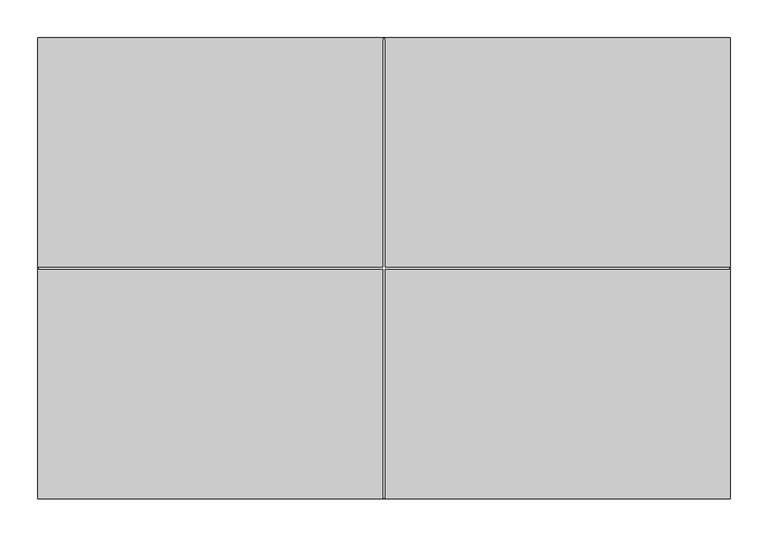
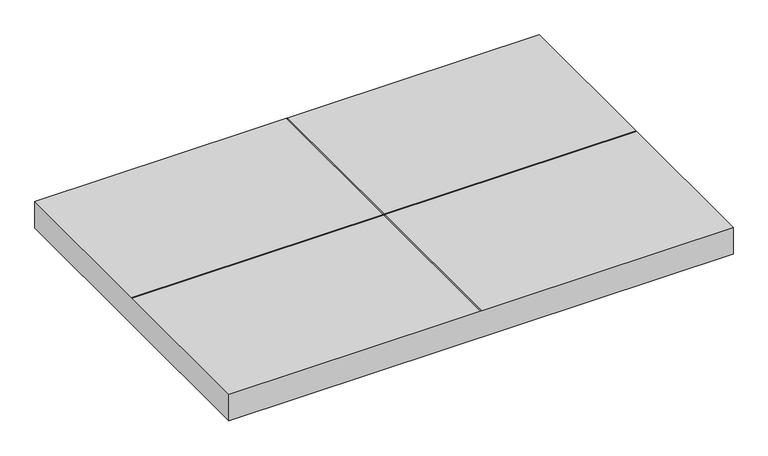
"""IFC4 building model written with IfcOpenShell, lengths in millimetres: furniture geometry, Steelcase - Universal Storage - Cushion Top - for Lateral File : Flush Steel Front - 24D x 36W."""

from ifc_helpers import new_model, si_unit, frame, origin, place, context, project, spatial, polyline, outline, extrude, source, transform, mapped, element, save


def furniture_033c3240(model_context):
    return source(origin(), model_context, "Body", "SweptSolid", [
        extrude(outline(polyline([(914.4, 0.0), (914.4, -609.6), (0.0, -609.6), (0.0, 0.0), (914.4, 0.0)]), holes=[polyline([(0.889, -303.911), (0.889, -305.689), (456.311, -305.689), (456.311, -608.7110015), (458.089, -608.7110015), (458.089, -305.689), (913.5109651, -305.689), (913.5109651, -303.911), (458.089, -303.911), (458.089, -0.889), (456.311, -0.889), (456.311, -303.911), (0.889, -303.911)])]), frame((0.0, 0.0, 533.4), z_axis=(0.0, 0.0, 1.0), x_axis=(1.0, 0.0, 0.0)), (0.0, 0.0, 1.0), 50.7999971),
    ])


if __name__ == "__main__":
    model = new_model("IFC4")
    model_context = context("Model", 3, world=origin())
    ifc_project = project(units=[si_unit("LENGTHUNIT", "METRE", prefix="MILLI")], contexts=[model_context])
    site = spatial("IfcSite", under=ifc_project)
    building = spatial("IfcBuilding", under=site)
    placement = place(None, origin())
    furniture_shape = furniture_033c3240(model_context)
    element("IfcFurniture", 1, ObjectType="Steelcase - Universal Storage - Cushion Top - for Lateral File : Flush Steel Front - 24D x 36W", at=placement, inside=building, context=model_context, shape_type="MappedRepresentation", body=[
        mapped(furniture_shape, transform((0.0, 0.0, 0.0), x_axis=(1.0, 0.0, 0.0), y_axis=(0.0, 1.0, 0.0), z_axis=(0.0, 0.0, 1.0))),
    ])
    save(model, "model.ifc")
